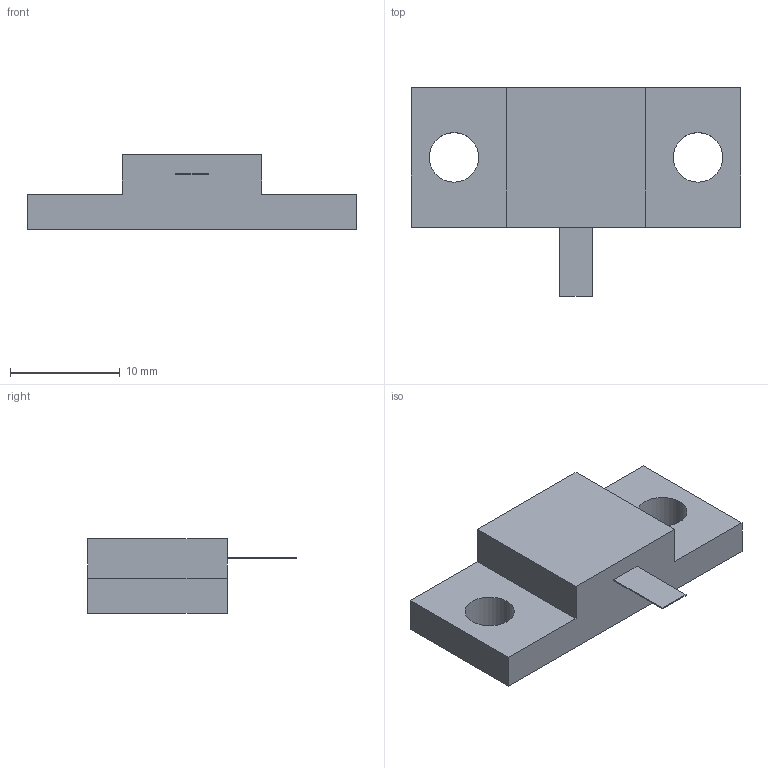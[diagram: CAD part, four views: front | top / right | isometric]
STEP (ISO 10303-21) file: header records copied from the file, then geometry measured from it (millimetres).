
FILE_DESCRIPTION(('STEP AP203'), '1');
FILE_NAME('P1-170-400-43', '', ('UNSPECIFIED'), ('UNSPECIFIED'), 'ASCON STEP Converter 1.6', 'ASCON Math Kernel', '');
FILE_SCHEMA(('CONFIG_CONTROL_DESIGN'));
Length unit declared in the file: millimetre
Bounding box: 30 x 19 x 6.8 mm (x, y, z)
Volume: 1699.9 mm3; surface area: 1284.1 mm2
Topology: 1 solids, 1 shells, 17 faces, 42 edges, 28 vertices
Faces by surface type: plane 15, cylinder 2
Full cylindrical faces by diameter (mm): 4.5 x2
Entity records: 678 total; most frequent: CARTESIAN_POINT 86, DIRECTION 80, ORIENTED_EDGE 80, EDGE_CURVE 40, LINE 36, VECTOR 36, VERTEX_POINT 28, EDGE_LOOP 24
